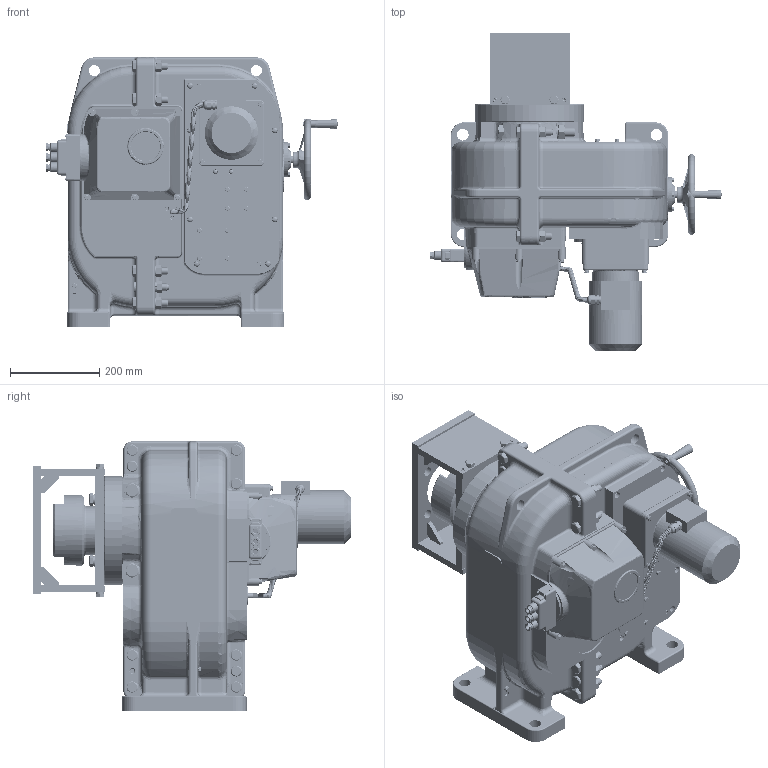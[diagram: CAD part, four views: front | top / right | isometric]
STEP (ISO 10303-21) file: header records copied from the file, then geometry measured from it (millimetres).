
FILE_DESCRIPTION(('THIS FILE CONTAINS SOME STEP INSTANCES'),'1');
FILE_NAME('Áåç èìåíè 1095.stp','2012-08-07T10:14:00',('UNDEFINED'),('UNDEFINED'),'T-FLEX CAD STEP converter','T-FLEX CAD','');
FILE_SCHEMA(('CONFIG_CONTROL_DESIGN'));
Length unit declared in the file: metre
Products named in the file (431): Undefined
Assembly tree (430 placements, depth 2):
  Undefined
    Undefined
    Undefined
    Undefined
    Undefined
    Undefined
    Undefined
    Undefined
    Undefined
    Undefined
    Undefined
    Undefined
    Undefined
    Undefined
    Undefined
    Undefined
    Undefined
    Undefined
    Undefined
    Undefined
    Undefined
    Undefined
    Undefined
    Undefined
    Undefined
    Undefined
    Undefined
    Undefined
    Undefined
    Undefined
    Undefined
    Undefined
    Undefined
    Undefined
    Undefined
    Undefined
    Undefined
    Undefined
    Undefined
    Undefined
    Undefined
    Undefined
    Undefined
    Undefined
    Undefined
    Undefined
    Undefined
    Undefined
    Undefined
    Undefined
    Undefined
    Undefined
    Undefined
    Undefined
    Undefined
    Undefined
    Undefined
    Undefined
    Undefined
    Undefined
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Bounding box: 654.62 x 714.25 x 605 mm (x, y, z)
Volume: 23908433.7 mm3; surface area: 4203284.8 mm2
Topology: 430 solids, 430 shells, 7891 faces, 17194 edges, 10745 vertices
Faces by surface type: plane 3300, cylinder 2236, torus 1133, cone 670, bspline 428, sphere 124
Full cylindrical faces by diameter (mm): 1.23 x1, 1.9 x2, 2.01 x1, 2.459 x12, 2.5 x4, 3 x4, 3.2 x4, 3.242 x3, 3.4 x4, 3.5 x4, 4 x4, 4.134 x4, 4.5 x3, 4.917 x42, 5 x6, 5.5 x5, 6 x41, 6.5 x1, 6.6 x11, 6.647 x12, 7 x60, 8 x319, 8.2 x1, 8.376 x8, 9 x190, 9.5 x2, 10 x46, 10.106 x5, 10.6 x150, 10.97 x1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
Entity records: 283158 total; most frequent: CARTESIAN_POINT 129362, ORIENTED_EDGE 28460, DIRECTION 25732, EDGE_CURVE 14230, EDGE_LOOP 12042, VERTEX_POINT 10505, AXIS2_PLACEMENT_3D 10228, FACE_OUTER_BOUND 10038
